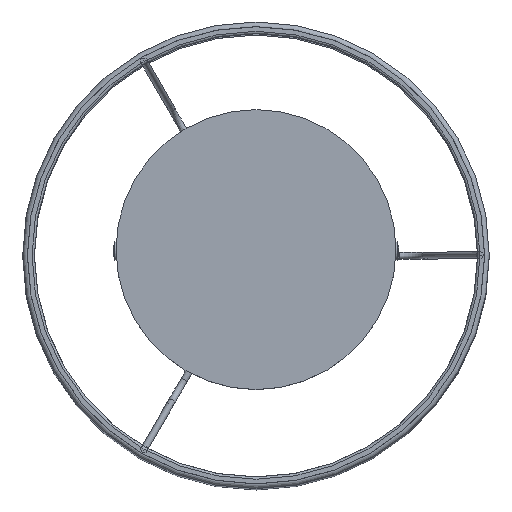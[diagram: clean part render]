
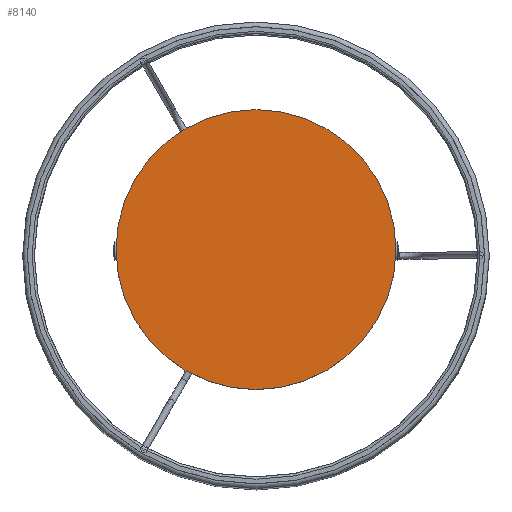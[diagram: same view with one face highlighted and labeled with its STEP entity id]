
A CAD part, top view. The second image highlights one B-rep face of the part: STEP entity #8140.
In plain terms, the highlighted planar face has unit normal (0, 0, 1).
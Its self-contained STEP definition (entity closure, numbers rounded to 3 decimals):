
#2320=FACE_OUTER_BOUND('',#2854,.T.);
#2854=EDGE_LOOP('',(#7383));
#3015=CIRCLE('',#8668,60.);
#3777=VERTEX_POINT('',#28765);
#4983=EDGE_CURVE('',#3777,#3777,#3015,.T.);
#7383=ORIENTED_EDGE('',*,*,#4983,.F.);
#7638=PLANE('',#8670);
#8140=ADVANCED_FACE('',(#2320),#7638,.F.);
#8668=AXIS2_PLACEMENT_3D('',#28767,#9945,#9946);
#8670=AXIS2_PLACEMENT_3D('',#28769,#9949,#9950);
#9945=DIRECTION('center_axis',(0.,0.,-1.));
#9946=DIRECTION('ref_axis',(1.,0.,0.));
#9949=DIRECTION('center_axis',(0.,0.,-1.));
#9950=DIRECTION('ref_axis',(1.,0.,0.));
#28765=CARTESIAN_POINT('',(-60.,0.,1750.));
#28767=CARTESIAN_POINT('Origin',(0.,0.,1750.));
#28769=CARTESIAN_POINT('Origin',(0.,0.,1750.));
